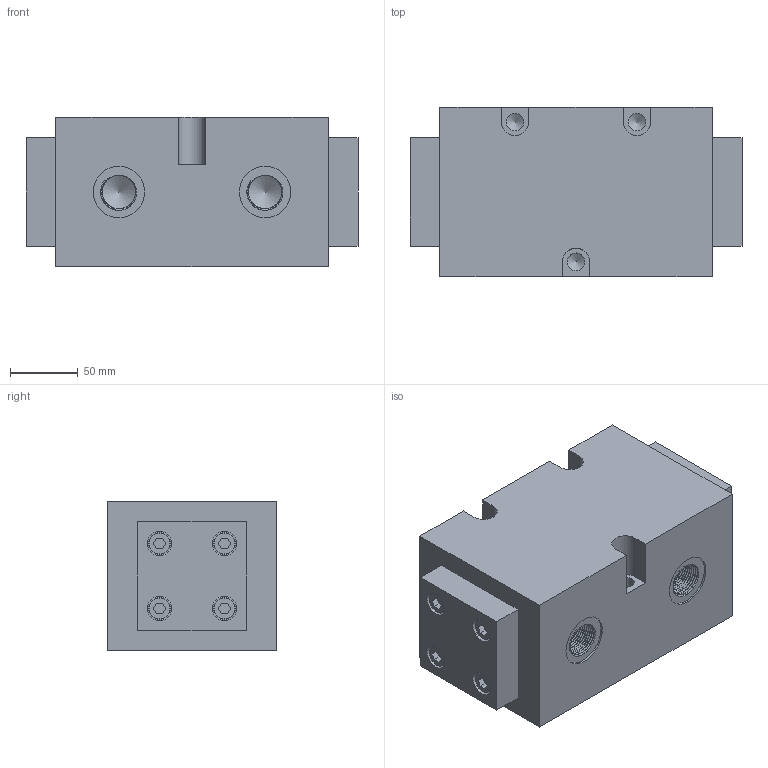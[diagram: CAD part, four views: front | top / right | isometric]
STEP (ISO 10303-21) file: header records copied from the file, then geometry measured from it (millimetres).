
FILE_DESCRIPTION(/* description */ (''),/* implementation_level */ '2;1');
FILE_NAME(/* name */ '14-4.prt.stp',/* time_stamp */ '2023-05-03T14:28:49+08:00',/* author */ (''),/* organization */ (''),/* preprocessor_version */ 'ST-DEVELOPER v16.7',/* originating_system */ 'SIEMENS PLM Software NX 12.0',/* authorisation */ '');
FILE_SCHEMA (('AUTOMOTIVE_DESIGN { 1 0 10303 214 3 1 1 1 }'));
Length unit declared in the file: millimetre
Products named in the file (1): 14-4
Bounding box: 245 x 125 x 110 mm (x, y, z)
Volume: 2913373 mm3; surface area: 215501.7 mm2
Topology: 11 solids, 11 shells, 263 faces, 658 edges, 436 vertices
Faces by surface type: plane 153, cylinder 71, cone 22, bspline 9, torus 8
Full cylindrical faces by diameter (mm): 8.5 x8, 10 x8, 11 x8, 13 x3, 16 x8, 18 x8, 38 x2, 47 x1
Entity records: 21098 total; most frequent: CARTESIAN_POINT 15236, DIRECTION 1167, ORIENTED_EDGE 1044, EDGE_CURVE 522, AXIS2_PLACEMENT_3D 426, EDGE_LOOP 398, VERTEX_POINT 398, LINE 315
